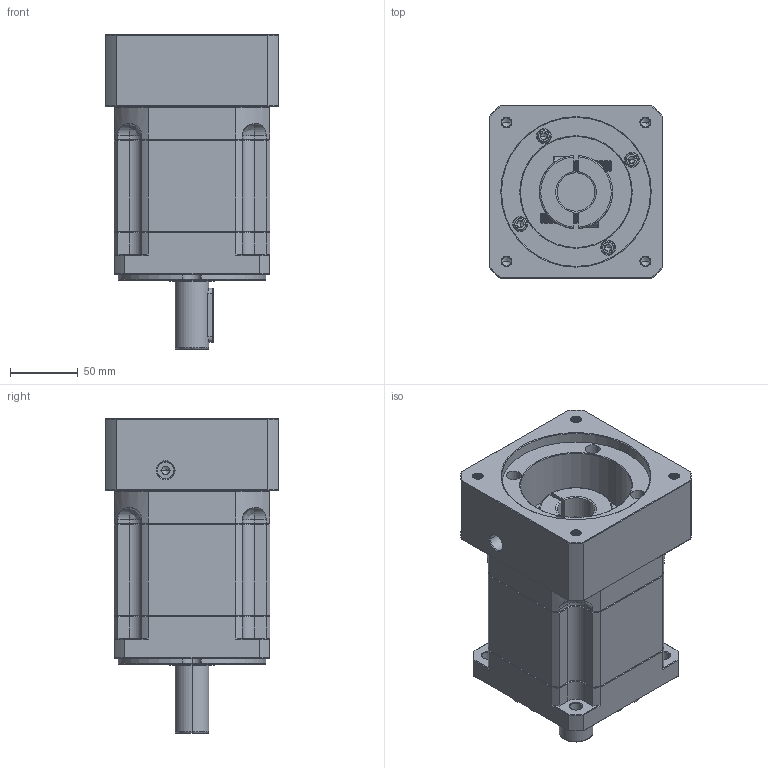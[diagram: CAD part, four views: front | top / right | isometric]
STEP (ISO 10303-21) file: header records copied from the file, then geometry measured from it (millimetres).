
FILE_DESCRIPTION (( 'STEP AP214' ), '1' );
FILE_NAME ('ZB115A-D25-L2-28-110-145-M8.step', '2023-03-02T08:58:02', ( '' ), ( 'Microsoft' ), 'SwSTEP 2.0', 'SolidWorks 2016', '' );
FILE_SCHEMA (( 'AUTOMOTIVE_DESIGN' ));
Length unit declared in the file: millimetre
Products named in the file (1): ZB115A-D25-L2-28-110-145-M8
Bounding box: 128 x 128 x 232 mm (x, y, z)
Volume: 2088061 mm3; surface area: 195728.6 mm2
Topology: 6 solids, 6 shells, 2112 faces, 5456 edges, 3438 vertices
Faces by surface type: plane 963, cylinder 439, cone 365, bspline 325, torus 20
Entity records: 112813 total; most frequent: CARTESIAN_POINT 40997, ORIENTED_EDGE 10844, DIRECTION 8892, EDGE_CURVE 5422, VERTEX_POINT 3438, LINE 3370, VECTOR 3370, AXIS2_PLACEMENT_3D 2761
